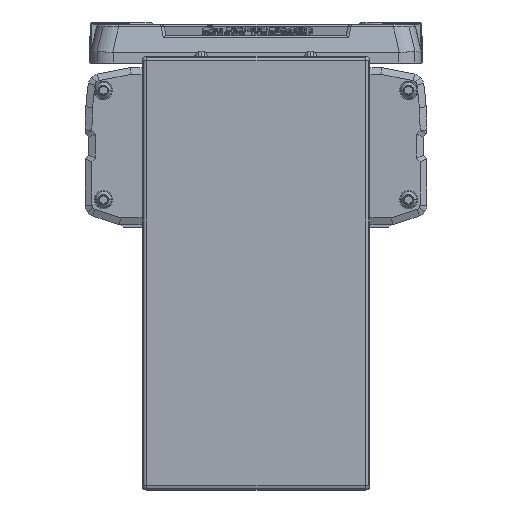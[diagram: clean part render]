
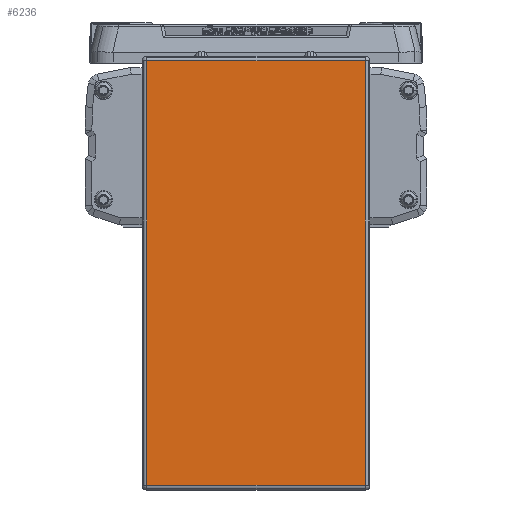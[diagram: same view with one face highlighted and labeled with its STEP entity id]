
A CAD part, left-side view. The second image highlights one B-rep face of the part: STEP entity #6236.
In plain terms, the highlighted planar face has unit normal (-1, 0, 0).
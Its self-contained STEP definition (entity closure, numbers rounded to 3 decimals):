
#6236=ADVANCED_FACE('',(#12776),#12777,.T.);
#12776=FACE_OUTER_BOUND('',#20976,.T.);
#12777=PLANE('',#20977);
#20976=EDGE_LOOP('',(#38613,#38614,#38615,#38616));
#20977=AXIS2_PLACEMENT_3D('',#38617,#38618,#38619);
#38613=ORIENTED_EDGE('',*,*,#47787,.F.);
#38614=ORIENTED_EDGE('',*,*,#43419,.F.);
#38615=ORIENTED_EDGE('',*,*,#47493,.F.);
#38616=ORIENTED_EDGE('',*,*,#47972,.F.);
#38617=CARTESIAN_POINT('',(-45.,0.,-64.2));
#38618=DIRECTION('',(-1.0,0.,0.));
#38619=DIRECTION('',(0.,1.0,0.));
#43419=EDGE_CURVE('',#52726,#49645,#52728,.T.);
#47493=EDGE_CURVE('',#57207,#52726,#58375,.T.);
#47787=EDGE_CURVE('',#49645,#58696,#58697,.T.);
#47972=EDGE_CURVE('',#58696,#57207,#58899,.T.);
#49645=VERTEX_POINT('',#60991);
#52726=VERTEX_POINT('',#65772);
#52728=LINE('',#65774,#65775);
#57207=VERTEX_POINT('',#72184);
#58375=LINE('',#73755,#73756);
#58696=VERTEX_POINT('',#74156);
#58697=LINE('',#74157,#74158);
#58899=LINE('',#74416,#74417);
#60991=CARTESIAN_POINT('',(-45.,48.,29.));
#65772=CARTESIAN_POINT('',(-45.,48.,-157.4));
#65774=CARTESIAN_POINT('',(-45.,48.,-64.2));
#65775=VECTOR('',#78453,10.0);
#72184=CARTESIAN_POINT('',(-45.,-48.,-157.4));
#73755=CARTESIAN_POINT('',(-45.,0.,-157.4));
#73756=VECTOR('',#83583,10.0);
#74156=CARTESIAN_POINT('',(-45.,-48.,29.));
#74157=CARTESIAN_POINT('',(-45.,0.,29.));
#74158=VECTOR('',#83838,10.0);
#74416=CARTESIAN_POINT('',(-45.,-48.,-64.2));
#74417=VECTOR('',#83971,10.0);
#78453=DIRECTION('',(0.,0.,1.0));
#83583=DIRECTION('',(0.0,1.0,0.));
#83838=DIRECTION('',(0.0,-1.0,0.));
#83971=DIRECTION('',(0.,0.,-1.0));
